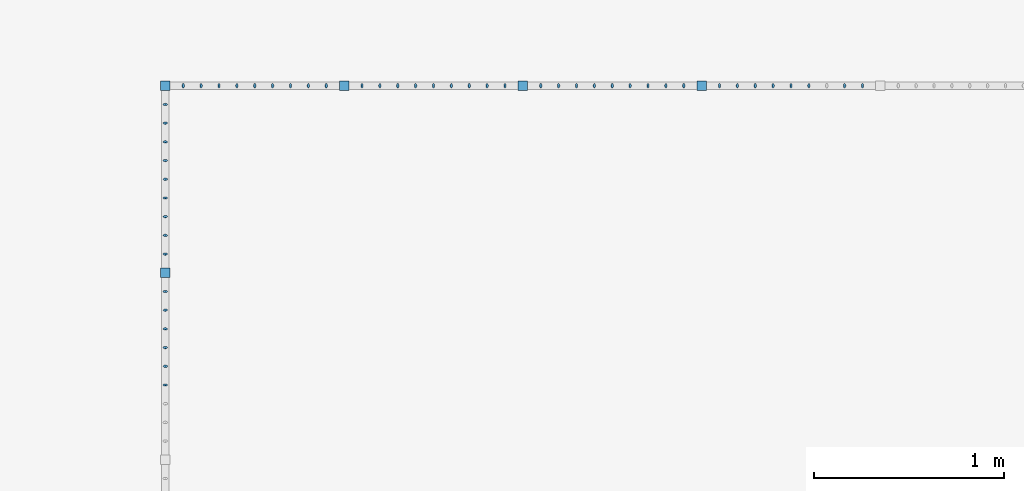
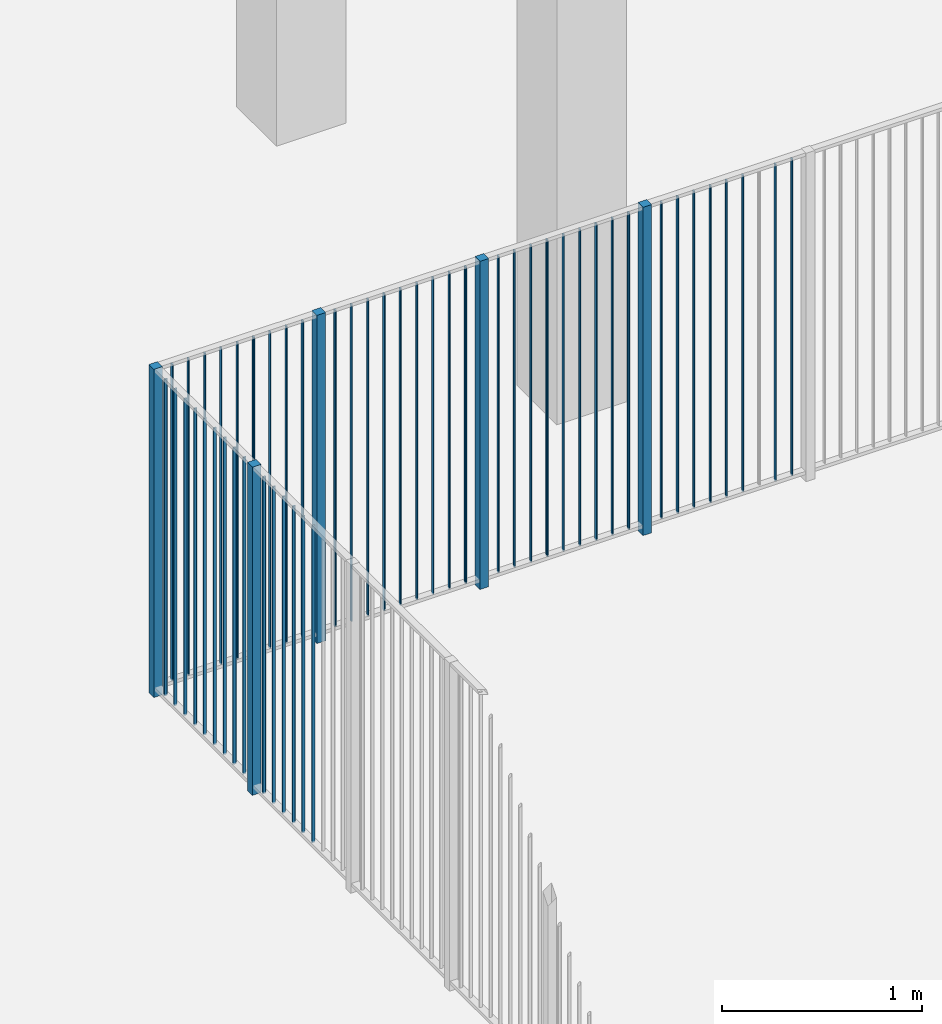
# One storey, part 2 of 135: 55 members, 1 element without a shape of its own.
"""IFC2X3 building model written with IfcOpenShell, lengths in millimetres."""

from ifc_helpers import new_model, entity, si_unit, converted_unit, derived_unit, money_unit, direction, frame, origin_with_axes, place, context, subcontext, project, spatial, faceted_brep, source, transform, mapped, material, type_object, type_shapes, element, aggregate, save


model = new_model("IFC2X3")

# Units and contexts
model_context = context("Model", 3, precision=0.01, world=origin_with_axes(), true_north=direction((0.0, 1.0)))
body_context = subcontext(model_context, "Body", "Model", "MODEL_VIEW")
ifc_project = project(units=[si_unit("LENGTHUNIT", "METRE", prefix="MILLI"), si_unit("AREAUNIT", "SQUARE_METRE"), si_unit("VOLUMEUNIT", "CUBIC_METRE"), converted_unit("PLANEANGLEUNIT", "DEGREE", entity("IfcPlaneAngleMeasure", 0.0174532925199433), si_unit("PLANEANGLEUNIT", "RADIAN"), dimensions=[0, 0, 0, 0, 0, 0, 0]), money_unit("EUR"), converted_unit("TIMEUNIT", "Year", entity("IfcTimeMeasure", 31557600.0), si_unit("TIMEUNIT", "SECOND"), dimensions=[0, 0, 1, 0, 0, 0, 0]), si_unit("MASSUNIT", "GRAM", prefix="KILO"), si_unit("THERMODYNAMICTEMPERATUREUNIT", "DEGREE_CELSIUS"), si_unit("LUMINOUSINTENSITYUNIT", "LUMEN"), si_unit("ENERGYUNIT", "JOULE", prefix="MEGA"), derived_unit("THERMALCONDUCTANCEUNIT", [(si_unit("POWERUNIT", "WATT"), 1), (si_unit("LENGTHUNIT", "METRE"), -1), (si_unit("THERMODYNAMICTEMPERATUREUNIT", "KELVIN"), -1)]), derived_unit("SPECIFICHEATCAPACITYUNIT", [(si_unit("ENERGYUNIT", "JOULE"), 1), (si_unit("MASSUNIT", "GRAM", prefix="KILO"), -1), (si_unit("THERMODYNAMICTEMPERATUREUNIT", "KELVIN"), -1)]), derived_unit("MASSDENSITYUNIT", [(si_unit("MASSUNIT", "GRAM", prefix="KILO"), 1), (si_unit("VOLUMEUNIT", "CUBIC_METRE"), -1)])], contexts=[model_context])

# Site, building, storey
site_placement = place(None, origin_with_axes())
site = spatial("IfcSite", under=ifc_project, at=site_placement, Name="Site", CompositionType="ELEMENT")
building_placement = place(site_placement, origin_with_axes())
building = spatial("IfcBuilding", under=site, at=building_placement, Name="Naam gebouw", CompositionType="ELEMENT")
storey_placement = place(building_placement, origin_with_axes())
storey = spatial("IfcBuildingStorey", under=building, at=storey_placement, Name="Begane grond N", CompositionType="ELEMENT", Elevation=0.0)

# Railing, members
railing_type = type_object("IfcRailingType", Name="Railing Type", PredefinedType="NOTDEFINED")
railing_placement = place(storey_placement, frame((-9250.67106541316, 12765.57502437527, 0.0), z_axis=(0.0, 0.0, 1.0), x_axis=(1.0, 0.0, 0.0)))
railing = element("IfcRailing", 1, at=railing_placement, inside=storey, type_object=railing_type, Name="_Reling-x", PredefinedType="NOTDEFINED")
ifc_material = material(Name="Metaal - Staal C")
member_type_1 = type_object("IfcMemberType", Name="IfcMember", PredefinedType="POST")
shared_shape_1 = source(origin_with_axes(), body_context, "Body", "Brep", [
    faceted_brep([(25.0, 25.0, 0.0), (-25.0, 25.0, 0.0), (-25.00000000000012, 25.0, 2000.0), (24.99999999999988, 25.0, 2000.0), (25.0, -25.0, 0.0), (-25.0, -25.0, 0.0), (-25.00000000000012, -25.0, 2000.0), (24.99999999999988, -25.0, 2000.0)], [[[0, 1, 2, 3]], [[0, 4, 5, 1]], [[1, 5, 6, 2]], [[3, 2, 6, 7]], [[4, 0, 3, 7]], [[5, 4, 7, 6]]]),
])
member_1_placement = place(railing_placement, frame((996.6510855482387, -24.99999999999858, 0.0), z_axis=(0.0, 0.0, 1.0), x_axis=(1.0, 0.0, 0.0)))
member_1 = element("IfcMember", 2, at=member_1_placement, type_object=member_type_1, material=ifc_material, Name="_Hoofdbaluster-x", ObjectType="POST", context=body_context, shape_type="MappedRepresentation", body=[
    mapped(shared_shape_1, transform((0.0, 0.0, 0.0))),
])
member_type_2 = type_object("IfcMemberType", Name="IfcMember", PredefinedType="MEMBER")
shared_shape_2 = source(origin_with_axes(), body_context, "Body", "Brep", [
    faceted_brep([(0.0, -5.0, 0.0), (1.736481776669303, -4.92403876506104, 0.0), (1.736481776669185, -4.92403876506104, 1930.0), (0.0, -5.0, 1930.0), (-1.736481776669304, -4.92403876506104, 0.0), (-3.420201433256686, -4.698463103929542, 0.0), (-5.000000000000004, -4.330127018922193, 0.0), (-6.427876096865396, -3.830222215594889, 0.0), (-7.660444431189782, -3.213938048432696, 0.0), (-8.660254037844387, -2.5, 0.0), (-9.396926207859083, -1.710100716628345, 0.0), (-9.848077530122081, -0.86824088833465, 0.0), (-10.0, 0.0, 0.0), (-9.84807753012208, 0.8682408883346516, 0.0), (-9.396926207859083, 1.710100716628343, 0.0), (-8.660254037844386, 2.500000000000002, 0.0), (-7.660444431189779, 3.213938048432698, 0.0), (-6.427876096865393, 3.83022221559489, 0.0), (-5.000000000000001, 4.330127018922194, 0.0), (-3.420201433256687, 4.698463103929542, 0.0), (-1.736481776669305, 4.92403876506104, 0.0), (0.0, 5.0, 0.0), (1.736481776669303, 4.92403876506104, 0.0), (3.420201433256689, 4.698463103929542, 0.0), (4.999999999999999, 4.330127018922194, 0.0), (6.427876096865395, 3.83022221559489, 0.0), (7.660444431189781, 3.213938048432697, 0.0), (8.660254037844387, 2.499999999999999, 0.0), (9.396926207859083, 1.710100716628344, 0.0), (9.84807753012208, 0.8682408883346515, 0.0), (10.0, 0.0, 0.0), (9.84807753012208, -0.8682408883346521, 0.0), (9.396926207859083, -1.710100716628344, 0.0), (8.660254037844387, -2.5, 0.0), (7.660444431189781, -3.213938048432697, 0.0), (6.427876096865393, -3.83022221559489, 0.0), (4.999999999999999, -4.330127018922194, 0.0), (3.420201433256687, -4.698463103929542, 0.0), (3.420201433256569, -4.698463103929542, 1930.0), (4.999999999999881, -4.330127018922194, 1930.0), (6.427876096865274, -3.83022221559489, 1930.0), (7.660444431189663, -3.213938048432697, 1930.0), (8.660254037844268, -2.5, 1930.0), (9.396926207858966, -1.710100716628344, 1930.0), (9.848077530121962, -0.8682408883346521, 1930.0), (9.999999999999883, 0.0, 1930.0), (9.848077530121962, 0.8682408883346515, 1930.0), (9.396926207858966, 1.710100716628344, 1930.0), (8.660254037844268, 2.499999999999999, 1930.0), (7.660444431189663, 3.213938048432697, 1930.0), (6.427876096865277, 3.83022221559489, 1930.0), (4.999999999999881, 4.330127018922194, 1930.0), (3.42020143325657, 4.698463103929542, 1930.0), (1.736481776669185, 4.92403876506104, 1930.0), (0.0, 5.0, 1930.0), (-1.736481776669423, 4.92403876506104, 1930.0), (-3.420201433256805, 4.698463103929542, 1930.0), (-5.000000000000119, 4.330127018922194, 1930.0), (-6.427876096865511, 3.83022221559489, 1930.0), (-7.660444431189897, 3.213938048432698, 1930.0), (-8.660254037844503, 2.500000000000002, 1930.0), (-9.396926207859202, 1.710100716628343, 1930.0), (-9.848077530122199, 0.8682408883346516, 1930.0), (-10.00000000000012, 0.0, 1930.0), (-9.8480775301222, -0.86824088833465, 1930.0), (-9.396926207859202, -1.710100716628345, 1930.0), (-8.660254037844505, -2.5, 1930.0), (-7.6604444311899, -3.213938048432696, 1930.0), (-6.427876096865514, -3.830222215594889, 1930.0), (-5.000000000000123, -4.330127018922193, 1930.0), (-3.420201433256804, -4.698463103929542, 1930.0), (-1.736481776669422, -4.92403876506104, 1930.0)], [[[0, 1, 2, 3]], [[0, 4, 5, 6, 7, 8, 9, 10, 11, 12, 13, 14, 15, 16, 17, 18, 19, 20, 21, 22, 23, 24, 25, 26, 27, 28, 29, 30, 31, 32, 33, 34, 35, 36, 37, 1]], [[1, 37, 38, 2]], [[3, 2, 38, 39, 40, 41, 42, 43, 44, 45, 46, 47, 48, 49, 50, 51, 52, 53, 54, 55, 56, 57, 58, 59, 60, 61, 62, 63, 64, 65, 66, 67, 68, 69, 70, 71]], [[4, 0, 3, 71]], [[5, 4, 71, 70]], [[6, 5, 70, 69]], [[7, 6, 69, 68]], [[8, 7, 68, 67]], [[9, 8, 67, 66]], [[10, 9, 66, 65]], [[11, 10, 65, 64]], [[12, 11, 64, 63]], [[13, 12, 63, 62]], [[14, 13, 62, 61]], [[15, 14, 61, 60]], [[16, 15, 60, 59]], [[17, 16, 59, 58]], [[18, 17, 58, 57]], [[19, 18, 57, 56]], [[20, 19, 56, 55]], [[21, 20, 55, 54]], [[22, 21, 54, 53]], [[23, 22, 53, 52]], [[24, 23, 52, 51]], [[25, 24, 51, 50]], [[26, 25, 50, 49]], [[27, 26, 49, 48]], [[28, 27, 48, 47]], [[29, 28, 47, 46]], [[30, 29, 46, 45]], [[31, 30, 45, 44]], [[32, 31, 44, 43]], [[33, 32, 43, 42]], [[34, 33, 42, 41]], [[35, 34, 41, 40]], [[36, 35, 40, 39]], [[37, 36, 39, 38]]]),
])
type_shapes(member_type_2, [shared_shape_2])
member_2_placement = place(railing_placement, frame((996.6510855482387, -1598.333333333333, 50.0), z_axis=(0.0, 0.0, 1.0), x_axis=(1.0, 0.0, 0.0)))
member_2 = element("IfcMember", 3, at=member_2_placement, type_object=member_type_2, material=ifc_material, Name="_Spijlen-x", ObjectType="MEMBER", context=body_context, shape_type="MappedRepresentation", body=[
    mapped(shared_shape_2, transform((0.0, 0.0, 0.0))),
])
member_3_placement = place(railing_placement, frame((996.6510855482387, -1500.0, 50.0), z_axis=(0.0, 0.0, 1.0), x_axis=(1.0, 0.0, 0.0)))
member_3 = element("IfcMember", 4, at=member_3_placement, type_object=member_type_2, material=ifc_material, Name="_Spijlen-x", ObjectType="MEMBER", context=body_context, shape_type="MappedRepresentation", body=[
    mapped(shared_shape_2, transform((0.0, 0.0, 0.0))),
])
member_4_placement = place(railing_placement, frame((996.6510855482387, -1401.666666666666, 50.0), z_axis=(0.0, 0.0, 1.0), x_axis=(1.0, 0.0, 0.0)))
member_4 = element("IfcMember", 5, at=member_4_placement, type_object=member_type_2, material=ifc_material, Name="_Spijlen-x", ObjectType="MEMBER", context=body_context, shape_type="MappedRepresentation", body=[
    mapped(shared_shape_2, transform((0.0, 0.0, 0.0))),
])
member_5_placement = place(railing_placement, frame((996.6510855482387, -1303.333333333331, 50.0), z_axis=(0.0, 0.0, 1.0), x_axis=(1.0, 0.0, 0.0)))
member_5 = element("IfcMember", 6, at=member_5_placement, type_object=member_type_2, material=ifc_material, Name="_Spijlen-x", ObjectType="MEMBER", context=body_context, shape_type="MappedRepresentation", body=[
    mapped(shared_shape_2, transform((0.0, 0.0, 0.0))),
])
member_6_placement = place(railing_placement, frame((996.6510855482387, -1204.999999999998, 50.0), z_axis=(0.0, 0.0, 1.0), x_axis=(1.0, 0.0, 0.0)))
member_6 = element("IfcMember", 7, at=member_6_placement, type_object=member_type_2, material=ifc_material, Name="_Spijlen-x", ObjectType="MEMBER", context=body_context, shape_type="MappedRepresentation", body=[
    mapped(shared_shape_2, transform((0.0, 0.0, 0.0))),
])
member_7_placement = place(railing_placement, frame((996.6510855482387, -1106.666666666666, 50.0), z_axis=(0.0, 0.0, 1.0), x_axis=(1.0, 0.0, 0.0)))
member_7 = element("IfcMember", 8, at=member_7_placement, type_object=member_type_2, material=ifc_material, Name="_Spijlen-x", ObjectType="MEMBER", context=body_context, shape_type="MappedRepresentation", body=[
    mapped(shared_shape_2, transform((0.0, 0.0, 0.0))),
])
member_8_placement = place(railing_placement, frame((996.6510855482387, -811.6666666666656, 50.0), z_axis=(0.0, 0.0, 1.0), x_axis=(1.0, 0.0, 0.0)))
member_8 = element("IfcMember", 9, at=member_8_placement, type_object=member_type_2, material=ifc_material, Name="_Spijlen-x", ObjectType="MEMBER", context=body_context, shape_type="MappedRepresentation", body=[
    mapped(shared_shape_2, transform((0.0, 0.0, 0.0))),
])
member_9_placement = place(railing_placement, frame((996.6510855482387, -713.3333333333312, 50.0), z_axis=(0.0, 0.0, 1.0), x_axis=(1.0, 0.0, 0.0)))
member_9 = element("IfcMember", 10, at=member_9_placement, type_object=member_type_2, material=ifc_material, Name="_Spijlen-x", ObjectType="MEMBER", context=body_context, shape_type="MappedRepresentation", body=[
    mapped(shared_shape_2, transform((0.0, 0.0, 0.0))),
])
member_10_placement = place(railing_placement, frame((996.6510855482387, -614.9999999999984, 50.0), z_axis=(0.0, 0.0, 1.0), x_axis=(1.0, 0.0, 0.0)))
member_10 = element("IfcMember", 11, at=member_10_placement, type_object=member_type_2, material=ifc_material, Name="_Spijlen-x", ObjectType="MEMBER", context=body_context, shape_type="MappedRepresentation", body=[
    mapped(shared_shape_2, transform((0.0, 0.0, 0.0))),
])
member_11_placement = place(railing_placement, frame((996.6510855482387, -516.6666666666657, 50.0), z_axis=(0.0, 0.0, 1.0), x_axis=(1.0, 0.0, 0.0)))
member_11 = element("IfcMember", 12, at=member_11_placement, type_object=member_type_2, material=ifc_material, Name="_Spijlen-x", ObjectType="MEMBER", context=body_context, shape_type="MappedRepresentation", body=[
    mapped(shared_shape_2, transform((0.0, 0.0, 0.0))),
])
member_12_placement = place(railing_placement, frame((996.6510855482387, -909.9999999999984, 50.0), z_axis=(0.0, 0.0, 1.0), x_axis=(1.0, 0.0, 0.0)))
member_12 = element("IfcMember", 13, at=member_12_placement, type_object=member_type_2, material=ifc_material, Name="_Spijlen-x", ObjectType="MEMBER", context=body_context, shape_type="MappedRepresentation", body=[
    mapped(shared_shape_2, transform((0.0, 0.0, 0.0))),
])
member_13_placement = place(railing_placement, frame((996.6510855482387, -418.333333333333, 50.0), z_axis=(0.0, 0.0, 1.0), x_axis=(1.0, 0.0, 0.0)))
member_13 = element("IfcMember", 14, at=member_13_placement, type_object=member_type_2, material=ifc_material, Name="_Spijlen-x", ObjectType="MEMBER", context=body_context, shape_type="MappedRepresentation", body=[
    mapped(shared_shape_2, transform((0.0, 0.0, 0.0))),
])
member_14_placement = place(railing_placement, frame((996.6510855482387, -319.9999999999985, 50.0), z_axis=(0.0, 0.0, 1.0), x_axis=(1.0, 0.0, 0.0)))
member_14 = element("IfcMember", 15, at=member_14_placement, type_object=member_type_2, material=ifc_material, Name="_Spijlen-x", ObjectType="MEMBER", context=body_context, shape_type="MappedRepresentation", body=[
    mapped(shared_shape_2, transform((0.0, 0.0, 0.0))),
])
member_15_placement = place(railing_placement, frame((996.6510855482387, -123.3333333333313, 50.0), z_axis=(0.0, 0.0, 1.0), x_axis=(1.0, 0.0, 0.0)))
member_15 = element("IfcMember", 16, at=member_15_placement, type_object=member_type_2, material=ifc_material, Name="_Spijlen-x", ObjectType="MEMBER", context=body_context, shape_type="MappedRepresentation", body=[
    mapped(shared_shape_2, transform((0.0, 0.0, 0.0))),
])
member_16_placement = place(railing_placement, frame((996.6510855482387, -221.666666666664, 50.0), z_axis=(0.0, 0.0, 1.0), x_axis=(1.0, 0.0, 0.0)))
member_16 = element("IfcMember", 17, at=member_16_placement, type_object=member_type_2, material=ifc_material, Name="_Spijlen-x", ObjectType="MEMBER", context=body_context, shape_type="MappedRepresentation", body=[
    mapped(shared_shape_2, transform((0.0, 0.0, 0.0))),
])
member_17_placement = place(railing_placement, frame((1090.63708527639, -25.00000000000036, 50.0), z_axis=(0.0, 0.0, 1.0), x_axis=(1.0, 0.0, 0.0)))
member_17 = element("IfcMember", 18, at=member_17_placement, type_object=member_type_2, material=ifc_material, Name="_Spijlen-x", ObjectType="MEMBER", context=body_context, shape_type="MappedRepresentation", body=[
    mapped(shared_shape_2, transform((0.0, 0.0, 0.0), x_axis=(0.0, -1.0, 0.0), y_axis=(1.0, 0.0, 0.0), z_axis=(0.0, 0.0, 1.0))),
])
member_18_placement = place(railing_placement, frame((1184.623085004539, -25.00000000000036, 50.0), z_axis=(0.0, 0.0, 1.0), x_axis=(1.0, 0.0, 0.0)))
member_18 = element("IfcMember", 19, at=member_18_placement, type_object=member_type_2, material=ifc_material, Name="_Spijlen-x", ObjectType="MEMBER", context=body_context, shape_type="MappedRepresentation", body=[
    mapped(shared_shape_2, transform((0.0, 0.0, 0.0), x_axis=(0.0, -1.0, 0.0), y_axis=(1.0, 0.0, 0.0), z_axis=(0.0, 0.0, 1.0))),
])
member_19_placement = place(railing_placement, frame((1278.60908473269, -25.00000000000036, 50.0), z_axis=(0.0, 0.0, 1.0), x_axis=(1.0, 0.0, 0.0)))
member_19 = element("IfcMember", 20, at=member_19_placement, type_object=member_type_2, material=ifc_material, Name="_Spijlen-x", ObjectType="MEMBER", context=body_context, shape_type="MappedRepresentation", body=[
    mapped(shared_shape_2, transform((0.0, 0.0, 0.0), x_axis=(0.0, -1.0, 0.0), y_axis=(1.0, 0.0, 0.0), z_axis=(0.0, 0.0, 1.0))),
])
member_20_placement = place(railing_placement, frame((1372.595084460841, -25.00000000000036, 50.0), z_axis=(0.0, 0.0, 1.0), x_axis=(1.0, 0.0, 0.0)))
member_20 = element("IfcMember", 21, at=member_20_placement, type_object=member_type_2, material=ifc_material, Name="_Spijlen-x", ObjectType="MEMBER", context=body_context, shape_type="MappedRepresentation", body=[
    mapped(shared_shape_2, transform((0.0, 0.0, 0.0), x_axis=(0.0, -1.0, 0.0), y_axis=(1.0, 0.0, 0.0), z_axis=(0.0, 0.0, 1.0))),
])
member_21_placement = place(railing_placement, frame((1560.567083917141, -25.00000000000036, 50.0), z_axis=(0.0, 0.0, 1.0), x_axis=(1.0, 0.0, 0.0)))
member_21 = element("IfcMember", 22, at=member_21_placement, type_object=member_type_2, material=ifc_material, Name="_Spijlen-x", ObjectType="MEMBER", context=body_context, shape_type="MappedRepresentation", body=[
    mapped(shared_shape_2, transform((0.0, 0.0, 0.0), x_axis=(0.0, -1.0, 0.0), y_axis=(1.0, 0.0, 0.0), z_axis=(0.0, 0.0, 1.0))),
])
member_22_placement = place(railing_placement, frame((1466.581084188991, -25.00000000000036, 50.0), z_axis=(0.0, 0.0, 1.0), x_axis=(1.0, 0.0, 0.0)))
member_22 = element("IfcMember", 23, at=member_22_placement, type_object=member_type_2, material=ifc_material, Name="_Spijlen-x", ObjectType="MEMBER", context=body_context, shape_type="MappedRepresentation", body=[
    mapped(shared_shape_2, transform((0.0, 0.0, 0.0), x_axis=(0.0, -1.0, 0.0), y_axis=(1.0, 0.0, 0.0), z_axis=(0.0, 0.0, 1.0))),
])
member_23_placement = place(railing_placement, frame((1654.553083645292, -25.00000000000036, 50.0), z_axis=(0.0, 0.0, 1.0), x_axis=(1.0, 0.0, 0.0)))
member_23 = element("IfcMember", 24, at=member_23_placement, type_object=member_type_2, material=ifc_material, Name="_Spijlen-x", ObjectType="MEMBER", context=body_context, shape_type="MappedRepresentation", body=[
    mapped(shared_shape_2, transform((0.0, 0.0, 0.0), x_axis=(0.0, -1.0, 0.0), y_axis=(1.0, 0.0, 0.0), z_axis=(0.0, 0.0, 1.0))),
])
member_24_placement = place(railing_placement, frame((1842.525083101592, -25.00000000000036, 50.0), z_axis=(0.0, 0.0, 1.0), x_axis=(1.0, 0.0, 0.0)))
member_24 = element("IfcMember", 25, at=member_24_placement, type_object=member_type_2, material=ifc_material, Name="_Spijlen-x", ObjectType="MEMBER", context=body_context, shape_type="MappedRepresentation", body=[
    mapped(shared_shape_2, transform((0.0, 0.0, 0.0), x_axis=(0.0, -1.0, 0.0), y_axis=(1.0, 0.0, 0.0), z_axis=(0.0, 0.0, 1.0))),
])
member_25_placement = place(railing_placement, frame((1748.539083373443, -25.00000000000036, 50.0), z_axis=(0.0, 0.0, 1.0), x_axis=(1.0, 0.0, 0.0)))
member_25 = element("IfcMember", 26, at=member_25_placement, type_object=member_type_2, material=ifc_material, Name="_Spijlen-x", ObjectType="MEMBER", context=body_context, shape_type="MappedRepresentation", body=[
    mapped(shared_shape_2, transform((0.0, 0.0, 0.0), x_axis=(0.0, -1.0, 0.0), y_axis=(1.0, 0.0, 0.0), z_axis=(0.0, 0.0, 1.0))),
])
member_26_placement = place(railing_placement, frame((2124.483082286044, -25.00000000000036, 50.0), z_axis=(0.0, 0.0, 1.0), x_axis=(1.0, 0.0, 0.0)))
member_26 = element("IfcMember", 27, at=member_26_placement, type_object=member_type_2, material=ifc_material, Name="_Spijlen-x", ObjectType="MEMBER", context=body_context, shape_type="MappedRepresentation", body=[
    mapped(shared_shape_2, transform((0.0, 0.0, 0.0), x_axis=(0.0, -1.0, 0.0), y_axis=(1.0, 0.0, 0.0), z_axis=(0.0, 0.0, 1.0))),
])
member_27_placement = place(railing_placement, frame((2218.469082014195, -25.00000000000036, 50.0), z_axis=(0.0, 0.0, 1.0), x_axis=(1.0, 0.0, 0.0)))
member_27 = element("IfcMember", 28, at=member_27_placement, type_object=member_type_2, material=ifc_material, Name="_Spijlen-x", ObjectType="MEMBER", context=body_context, shape_type="MappedRepresentation", body=[
    mapped(shared_shape_2, transform((0.0, 0.0, 0.0), x_axis=(0.0, -1.0, 0.0), y_axis=(1.0, 0.0, 0.0), z_axis=(0.0, 0.0, 1.0))),
])
member_28_placement = place(railing_placement, frame((2030.497082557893, -25.00000000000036, 50.0), z_axis=(0.0, 0.0, 1.0), x_axis=(1.0, 0.0, 0.0)))
member_28 = element("IfcMember", 29, at=member_28_placement, type_object=member_type_2, material=ifc_material, Name="_Spijlen-x", ObjectType="MEMBER", context=body_context, shape_type="MappedRepresentation", body=[
    mapped(shared_shape_2, transform((0.0, 0.0, 0.0), x_axis=(0.0, -1.0, 0.0), y_axis=(1.0, 0.0, 0.0), z_axis=(0.0, 0.0, 1.0))),
])
member_29_placement = place(railing_placement, frame((2312.455081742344, -25.00000000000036, 50.0), z_axis=(0.0, 0.0, 1.0), x_axis=(1.0, 0.0, 0.0)))
member_29 = element("IfcMember", 30, at=member_29_placement, type_object=member_type_2, material=ifc_material, Name="_Spijlen-x", ObjectType="MEMBER", context=body_context, shape_type="MappedRepresentation", body=[
    mapped(shared_shape_2, transform((0.0, 0.0, 0.0), x_axis=(0.0, -1.0, 0.0), y_axis=(1.0, 0.0, 0.0), z_axis=(0.0, 0.0, 1.0))),
])
member_30_placement = place(railing_placement, frame((2500.427081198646, -25.00000000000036, 50.0), z_axis=(0.0, 0.0, 1.0), x_axis=(1.0, 0.0, 0.0)))
member_30 = element("IfcMember", 31, at=member_30_placement, type_object=member_type_2, material=ifc_material, Name="_Spijlen-x", ObjectType="MEMBER", context=body_context, shape_type="MappedRepresentation", body=[
    mapped(shared_shape_2, transform((0.0, 0.0, 0.0), x_axis=(0.0, -1.0, 0.0), y_axis=(1.0, 0.0, 0.0), z_axis=(0.0, 0.0, 1.0))),
])
member_31_placement = place(railing_placement, frame((2594.413080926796, -25.00000000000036, 50.0), z_axis=(0.0, 0.0, 1.0), x_axis=(1.0, 0.0, 0.0)))
member_31 = element("IfcMember", 32, at=member_31_placement, type_object=member_type_2, material=ifc_material, Name="_Spijlen-x", ObjectType="MEMBER", context=body_context, shape_type="MappedRepresentation", body=[
    mapped(shared_shape_2, transform((0.0, 0.0, 0.0), x_axis=(0.0, -1.0, 0.0), y_axis=(1.0, 0.0, 0.0), z_axis=(0.0, 0.0, 1.0))),
])
member_32_placement = place(railing_placement, frame((2406.441081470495, -25.00000000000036, 50.0), z_axis=(0.0, 0.0, 1.0), x_axis=(1.0, 0.0, 0.0)))
member_32 = element("IfcMember", 33, at=member_32_placement, type_object=member_type_2, material=ifc_material, Name="_Spijlen-x", ObjectType="MEMBER", context=body_context, shape_type="MappedRepresentation", body=[
    mapped(shared_shape_2, transform((0.0, 0.0, 0.0), x_axis=(0.0, -1.0, 0.0), y_axis=(1.0, 0.0, 0.0), z_axis=(0.0, 0.0, 1.0))),
])
member_33_placement = place(railing_placement, frame((2782.385080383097, -25.00000000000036, 50.0), z_axis=(0.0, 0.0, 1.0), x_axis=(1.0, 0.0, 0.0)))
member_33 = element("IfcMember", 34, at=member_33_placement, type_object=member_type_2, material=ifc_material, Name="_Spijlen-x", ObjectType="MEMBER", context=body_context, shape_type="MappedRepresentation", body=[
    mapped(shared_shape_2, transform((0.0, 0.0, 0.0), x_axis=(0.0, -1.0, 0.0), y_axis=(1.0, 0.0, 0.0), z_axis=(0.0, 0.0, 1.0))),
])
member_34_placement = place(railing_placement, frame((2688.399080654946, -25.00000000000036, 50.0), z_axis=(0.0, 0.0, 1.0), x_axis=(1.0, 0.0, 0.0)))
member_34 = element("IfcMember", 35, at=member_34_placement, type_object=member_type_2, material=ifc_material, Name="_Spijlen-x", ObjectType="MEMBER", context=body_context, shape_type="MappedRepresentation", body=[
    mapped(shared_shape_2, transform((0.0, 0.0, 0.0), x_axis=(0.0, -1.0, 0.0), y_axis=(1.0, 0.0, 0.0), z_axis=(0.0, 0.0, 1.0))),
])
member_35_placement = place(railing_placement, frame((2970.357079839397, -25.00000000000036, 50.0), z_axis=(0.0, 0.0, 1.0), x_axis=(1.0, 0.0, 0.0)))
member_35 = element("IfcMember", 36, at=member_35_placement, type_object=member_type_2, material=ifc_material, Name="_Spijlen-x", ObjectType="MEMBER", context=body_context, shape_type="MappedRepresentation", body=[
    mapped(shared_shape_2, transform((0.0, 0.0, 0.0), x_axis=(0.0, -1.0, 0.0), y_axis=(1.0, 0.0, 0.0), z_axis=(0.0, 0.0, 1.0))),
])
member_36_placement = place(railing_placement, frame((3158.329079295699, -25.00000000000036, 50.0), z_axis=(0.0, 0.0, 1.0), x_axis=(1.0, 0.0, 0.0)))
member_36 = element("IfcMember", 37, at=member_36_placement, type_object=member_type_2, material=ifc_material, Name="_Spijlen-x", ObjectType="MEMBER", context=body_context, shape_type="MappedRepresentation", body=[
    mapped(shared_shape_2, transform((0.0, 0.0, 0.0), x_axis=(0.0, -1.0, 0.0), y_axis=(1.0, 0.0, 0.0), z_axis=(0.0, 0.0, 1.0))),
])
member_37_placement = place(railing_placement, frame((3064.343079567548, -25.00000000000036, 50.0), z_axis=(0.0, 0.0, 1.0), x_axis=(1.0, 0.0, 0.0)))
member_37 = element("IfcMember", 38, at=member_37_placement, type_object=member_type_2, material=ifc_material, Name="_Spijlen-x", ObjectType="MEMBER", context=body_context, shape_type="MappedRepresentation", body=[
    mapped(shared_shape_2, transform((0.0, 0.0, 0.0), x_axis=(0.0, -1.0, 0.0), y_axis=(1.0, 0.0, 0.0), z_axis=(0.0, 0.0, 1.0))),
])
member_38_placement = place(railing_placement, frame((3346.301078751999, -25.00000000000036, 50.0), z_axis=(0.0, 0.0, 1.0), x_axis=(1.0, 0.0, 0.0)))
member_38 = element("IfcMember", 39, at=member_38_placement, type_object=member_type_2, material=ifc_material, Name="_Spijlen-x", ObjectType="MEMBER", context=body_context, shape_type="MappedRepresentation", body=[
    mapped(shared_shape_2, transform((0.0, 0.0, 0.0), x_axis=(0.0, -1.0, 0.0), y_axis=(1.0, 0.0, 0.0), z_axis=(0.0, 0.0, 1.0))),
])
member_39_placement = place(railing_placement, frame((3252.315079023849, -25.00000000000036, 50.0), z_axis=(0.0, 0.0, 1.0), x_axis=(1.0, 0.0, 0.0)))
member_39 = element("IfcMember", 40, at=member_39_placement, type_object=member_type_2, material=ifc_material, Name="_Spijlen-x", ObjectType="MEMBER", context=body_context, shape_type="MappedRepresentation", body=[
    mapped(shared_shape_2, transform((0.0, 0.0, 0.0), x_axis=(0.0, -1.0, 0.0), y_axis=(1.0, 0.0, 0.0), z_axis=(0.0, 0.0, 1.0))),
])
member_40_placement = place(railing_placement, frame((3440.28707848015, -25.00000000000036, 50.0), z_axis=(0.0, 0.0, 1.0), x_axis=(1.0, 0.0, 0.0)))
member_40 = element("IfcMember", 41, at=member_40_placement, type_object=member_type_2, material=ifc_material, Name="_Spijlen-x", ObjectType="MEMBER", context=body_context, shape_type="MappedRepresentation", body=[
    mapped(shared_shape_2, transform((0.0, 0.0, 0.0), x_axis=(0.0, -1.0, 0.0), y_axis=(1.0, 0.0, 0.0), z_axis=(0.0, 0.0, 1.0))),
])
member_41_placement = place(railing_placement, frame((3534.273078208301, -25.00000000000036, 50.0), z_axis=(0.0, 0.0, 1.0), x_axis=(1.0, 0.0, 0.0)))
member_41 = element("IfcMember", 42, at=member_41_placement, type_object=member_type_2, material=ifc_material, Name="_Spijlen-x", ObjectType="MEMBER", context=body_context, shape_type="MappedRepresentation", body=[
    mapped(shared_shape_2, transform((0.0, 0.0, 0.0), x_axis=(0.0, -1.0, 0.0), y_axis=(1.0, 0.0, 0.0), z_axis=(0.0, 0.0, 1.0))),
])
member_42_placement = place(railing_placement, frame((3628.259077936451, -25.00000000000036, 50.0), z_axis=(0.0, 0.0, 1.0), x_axis=(1.0, 0.0, 0.0)))
member_42 = element("IfcMember", 43, at=member_42_placement, type_object=member_type_2, material=ifc_material, Name="_Spijlen-x", ObjectType="MEMBER", context=body_context, shape_type="MappedRepresentation", body=[
    mapped(shared_shape_2, transform((0.0, 0.0, 0.0), x_axis=(0.0, -1.0, 0.0), y_axis=(1.0, 0.0, 0.0), z_axis=(0.0, 0.0, 1.0))),
])
member_43_placement = place(railing_placement, frame((3722.245077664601, -25.00000000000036, 50.0), z_axis=(0.0, 0.0, 1.0), x_axis=(1.0, 0.0, 0.0)))
member_43 = element("IfcMember", 44, at=member_43_placement, type_object=member_type_2, material=ifc_material, Name="_Spijlen-x", ObjectType="MEMBER", context=body_context, shape_type="MappedRepresentation", body=[
    mapped(shared_shape_2, transform((0.0, 0.0, 0.0), x_axis=(0.0, -1.0, 0.0), y_axis=(1.0, 0.0, 0.0), z_axis=(0.0, 0.0, 1.0))),
])
member_44_placement = place(railing_placement, frame((3910.217077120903, -25.00000000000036, 50.0), z_axis=(0.0, 0.0, 1.0), x_axis=(1.0, 0.0, 0.0)))
member_44 = element("IfcMember", 45, at=member_44_placement, type_object=member_type_2, material=ifc_material, Name="_Spijlen-x", ObjectType="MEMBER", context=body_context, shape_type="MappedRepresentation", body=[
    mapped(shared_shape_2, transform((0.0, 0.0, 0.0), x_axis=(0.0, -1.0, 0.0), y_axis=(1.0, 0.0, 0.0), z_axis=(0.0, 0.0, 1.0))),
])
member_45_placement = place(railing_placement, frame((4098.189076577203, -25.00000000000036, 50.0), z_axis=(0.0, 0.0, 1.0), x_axis=(1.0, 0.0, 0.0)))
member_45 = element("IfcMember", 46, at=member_45_placement, type_object=member_type_2, material=ifc_material, Name="_Spijlen-x", ObjectType="MEMBER", context=body_context, shape_type="MappedRepresentation", body=[
    mapped(shared_shape_2, transform((0.0, 0.0, 0.0), x_axis=(0.0, -1.0, 0.0), y_axis=(1.0, 0.0, 0.0), z_axis=(0.0, 0.0, 1.0))),
])
member_46_placement = place(railing_placement, frame((4004.203076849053, -25.00000000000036, 50.0), z_axis=(0.0, 0.0, 1.0), x_axis=(1.0, 0.0, 0.0)))
member_46 = element("IfcMember", 47, at=member_46_placement, type_object=member_type_2, material=ifc_material, Name="_Spijlen-x", ObjectType="MEMBER", context=body_context, shape_type="MappedRepresentation", body=[
    mapped(shared_shape_2, transform((0.0, 0.0, 0.0), x_axis=(0.0, -1.0, 0.0), y_axis=(1.0, 0.0, 0.0), z_axis=(0.0, 0.0, 1.0))),
])
member_47_placement = place(railing_placement, frame((4192.175076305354, -25.00000000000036, 50.0), z_axis=(0.0, 0.0, 1.0), x_axis=(1.0, 0.0, 0.0)))
member_47 = element("IfcMember", 48, at=member_47_placement, type_object=member_type_2, material=ifc_material, Name="_Spijlen-x", ObjectType="MEMBER", context=body_context, shape_type="MappedRepresentation", body=[
    mapped(shared_shape_2, transform((0.0, 0.0, 0.0), x_axis=(0.0, -1.0, 0.0), y_axis=(1.0, 0.0, 0.0), z_axis=(0.0, 0.0, 1.0))),
])
member_48_placement = place(railing_placement, frame((4380.147075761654, -25.00000000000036, 50.0), z_axis=(0.0, 0.0, 1.0), x_axis=(1.0, 0.0, 0.0)))
member_48 = element("IfcMember", 49, at=member_48_placement, type_object=member_type_2, material=ifc_material, Name="_Spijlen-x", ObjectType="MEMBER", context=body_context, shape_type="MappedRepresentation", body=[
    mapped(shared_shape_2, transform((0.0, 0.0, 0.0), x_axis=(0.0, -1.0, 0.0), y_axis=(1.0, 0.0, 0.0), z_axis=(0.0, 0.0, 1.0))),
])
member_49_placement = place(railing_placement, frame((4568.119075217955, -25.00000000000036, 50.0), z_axis=(0.0, 0.0, 1.0), x_axis=(1.0, 0.0, 0.0)))
member_49 = element("IfcMember", 50, at=member_49_placement, type_object=member_type_2, material=ifc_material, Name="_Spijlen-x", ObjectType="MEMBER", context=body_context, shape_type="MappedRepresentation", body=[
    mapped(shared_shape_2, transform((0.0, 0.0, 0.0), x_axis=(0.0, -1.0, 0.0), y_axis=(1.0, 0.0, 0.0), z_axis=(0.0, 0.0, 1.0))),
])
member_50_placement = place(railing_placement, frame((4662.105074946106, -25.00000000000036, 50.0), z_axis=(0.0, 0.0, 1.0), x_axis=(1.0, 0.0, 0.0)))
member_50 = element("IfcMember", 51, at=member_50_placement, type_object=member_type_2, material=ifc_material, Name="_Spijlen-x", ObjectType="MEMBER", context=body_context, shape_type="MappedRepresentation", body=[
    mapped(shared_shape_2, transform((0.0, 0.0, 0.0), x_axis=(0.0, -1.0, 0.0), y_axis=(1.0, 0.0, 0.0), z_axis=(0.0, 0.0, 1.0))),
])
member_51_placement = place(railing_placement, frame((4286.161076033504, -25.00000000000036, 50.0), z_axis=(0.0, 0.0, 1.0), x_axis=(1.0, 0.0, 0.0)))
member_51 = element("IfcMember", 52, at=member_51_placement, type_object=member_type_2, material=ifc_material, Name="_Spijlen-x", ObjectType="MEMBER", context=body_context, shape_type="MappedRepresentation", body=[
    mapped(shared_shape_2, transform((0.0, 0.0, 0.0), x_axis=(0.0, -1.0, 0.0), y_axis=(1.0, 0.0, 0.0), z_axis=(0.0, 0.0, 1.0))),
])
shared_shape_3 = source(origin_with_axes(), body_context, "Body", "Brep", [
    faceted_brep([(25.0, 25.0, 0.0), (-25.0, 25.0, 0.0), (-25.00000000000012, 25.0, 2000.0), (24.99999999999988, 25.0, 2000.0), (25.0, -25.0, 0.0), (-25.0, -25.0, 0.0), (-25.00000000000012, -25.0, 2000.0), (24.99999999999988, -25.0, 2000.0)], [[[0, 1, 2, 3]], [[0, 4, 5, 1]], [[1, 5, 6, 2]], [[3, 2, 6, 7]], [[4, 0, 3, 7]], [[5, 4, 7, 6]]]),
])
type_shapes(member_type_1, [shared_shape_1, shared_shape_3])
member_52_placement = place(railing_placement, frame((996.6510855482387, -1008.333333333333, 0.0), z_axis=(0.0, 0.0, 1.0), x_axis=(1.0, 0.0, 0.0)))
member_52 = element("IfcMember", 53, at=member_52_placement, type_object=member_type_1, material=ifc_material, Name="_Baluster-x", ObjectType="POST", context=body_context, shape_type="MappedRepresentation", body=[
    mapped(shared_shape_3, transform((0.0, 0.0, 0.0))),
])
member_53_placement = place(railing_placement, frame((1936.511082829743, -25.00000000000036, 0.0), z_axis=(0.0, 0.0, 1.0), x_axis=(1.0, 0.0, 0.0)))
member_53 = element("IfcMember", 54, at=member_53_placement, type_object=member_type_1, material=ifc_material, Name="_Baluster-x", ObjectType="POST", context=body_context, shape_type="MappedRepresentation", body=[
    mapped(shared_shape_3, transform((0.0, 0.0, 0.0), x_axis=(0.0, -1.0, 0.0), y_axis=(1.0, 0.0, 0.0), z_axis=(0.0, 0.0, 1.0))),
])
member_54_placement = place(railing_placement, frame((2876.371080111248, -25.00000000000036, 0.0), z_axis=(0.0, 0.0, 1.0), x_axis=(1.0, 0.0, 0.0)))
member_54 = element("IfcMember", 55, at=member_54_placement, type_object=member_type_1, material=ifc_material, Name="_Baluster-x", ObjectType="POST", context=body_context, shape_type="MappedRepresentation", body=[
    mapped(shared_shape_3, transform((0.0, 0.0, 0.0), x_axis=(0.0, -1.0, 0.0), y_axis=(1.0, 0.0, 0.0), z_axis=(0.0, 0.0, 1.0))),
])
member_55_placement = place(railing_placement, frame((3816.231077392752, -25.00000000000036, 0.0), z_axis=(0.0, 0.0, 1.0), x_axis=(1.0, 0.0, 0.0)))
member_55 = element("IfcMember", 56, at=member_55_placement, type_object=member_type_1, material=ifc_material, Name="_Baluster-x", ObjectType="POST", context=body_context, shape_type="MappedRepresentation", body=[
    mapped(shared_shape_3, transform((0.0, 0.0, 0.0), x_axis=(0.0, -1.0, 0.0), y_axis=(1.0, 0.0, 0.0), z_axis=(0.0, 0.0, 1.0))),
])
aggregate(railing, [member_1, member_2, member_3, member_4, member_5, member_6, member_7, member_52, member_8, member_9, member_10, member_11, member_12, member_13, member_14, member_15, member_16, member_17, member_18, member_19, member_20, member_21, member_22, member_23, member_24, member_25, member_53, member_26, member_27, member_28, member_29, member_30, member_31, member_32, member_33, member_34, member_54, member_35, member_36, member_37, member_38, member_39, member_40, member_41, member_42, member_43, member_44, member_45, member_46, member_55, member_47, member_48, member_49, member_50, member_51])

save(model, "model.ifc")
